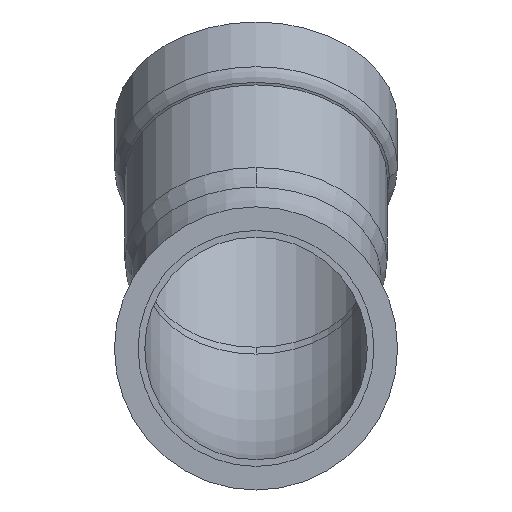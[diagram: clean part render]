
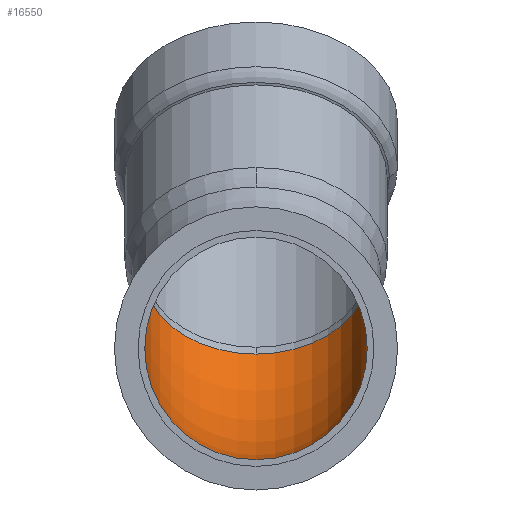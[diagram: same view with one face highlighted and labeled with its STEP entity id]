
A CAD part, left-side view. The second image highlights one B-rep face of the part: STEP entity #16550.
In plain terms, the highlighted toroidal (fillet/blend) face has major radius 65 mm and minor radius 29 mm.
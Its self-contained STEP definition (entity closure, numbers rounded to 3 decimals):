
#580=CARTESIAN_POINT('',(51.889,74.86,0.));
#590=DIRECTION('',(-0.707,-0.707,-0.));
#600=DIRECTION('',(0.,0.,1.));
#610=AXIS2_PLACEMENT_3D('',#580,#590,#600);
#620=CIRCLE('',#610,29.);
#630=CARTESIAN_POINT('',(51.889,74.86,29.));
#640=VERTEX_POINT('',#630);
#650=CARTESIAN_POINT('',(31.383,95.366,
0.));
#660=VERTEX_POINT('',#650);
#670=EDGE_CURVE('',#640,#660,#620,.T.);
#3530=CARTESIAN_POINT('',(51.889,74.86,-29.));
#3540=VERTEX_POINT('',#3530);
#3550=EDGE_CURVE('',#660,#3540,#620,.T.);
#4350=CARTESIAN_POINT('',(97.851,122.898,0.));
#4360=VERTEX_POINT('',#4350);
#4390=CARTESIAN_POINT('',(97.851,93.898,0.));
#4400=DIRECTION('',(-1.,0.,0.));
#4410=DIRECTION('',(0.,0.,1.));
#4420=AXIS2_PLACEMENT_3D('',#4390,#4400,#4410);
#4430=CIRCLE('',#4420,29.);
#4440=CARTESIAN_POINT('',(97.851,93.898,29.));
#4450=VERTEX_POINT('',#4440);
#4460=EDGE_CURVE('',#4450,#4360,#4430,.T.);
#11590=CARTESIAN_POINT('',(97.851,93.898,-29.));
#11600=VERTEX_POINT('',#11590);
#11630=EDGE_CURVE('',#4360,#11600,#4430,.T.);
#16220=CARTESIAN_POINT('',(97.851,28.898,-29.));
#16230=DIRECTION('',(0.,0.,1.));
#16240=DIRECTION('',(0.,1.,0.));
#16250=AXIS2_PLACEMENT_3D('',#16220,#16230,#16240);
#16260=CIRCLE('',#16250,65.);
#16270=EDGE_CURVE('',#11600,#3540,#16260,.T.);
#16310=CARTESIAN_POINT('',(97.851,28.898,29.));
#16320=DIRECTION('',(0.,0.,1.));
#16330=DIRECTION('',(0.,1.,0.));
#16340=AXIS2_PLACEMENT_3D('',#16310,#16320,#16330);
#16350=CIRCLE('',#16340,65.);
#16360=EDGE_CURVE('',#4450,#640,#16350,.T.);
#16420=CARTESIAN_POINT('',(97.851,28.898,0.));
#16430=DIRECTION('',(0.,0.,1.));
#16440=DIRECTION('',(0.,1.,0.));
#16450=AXIS2_PLACEMENT_3D('',#16420,#16430,#16440);
#16460=TOROIDAL_SURFACE('',#16450,65.,29.);
#16470=ORIENTED_EDGE('',*,*,#3550,.T.);
#16480=ORIENTED_EDGE('',*,*,#670,.T.);
#16490=ORIENTED_EDGE('',*,*,#16360,.T.);
#16500=ORIENTED_EDGE('',*,*,#4460,.F.);
#16510=ORIENTED_EDGE('',*,*,#11630,.F.);
#16520=ORIENTED_EDGE('',*,*,#16270,.F.);
#16530=EDGE_LOOP('',(#16520,#16510,#16500,#16490,#16480,#16470));
#16540=FACE_OUTER_BOUND('',#16530,.T.);
#16550=ADVANCED_FACE('',(#16540),#16460,.F.);
